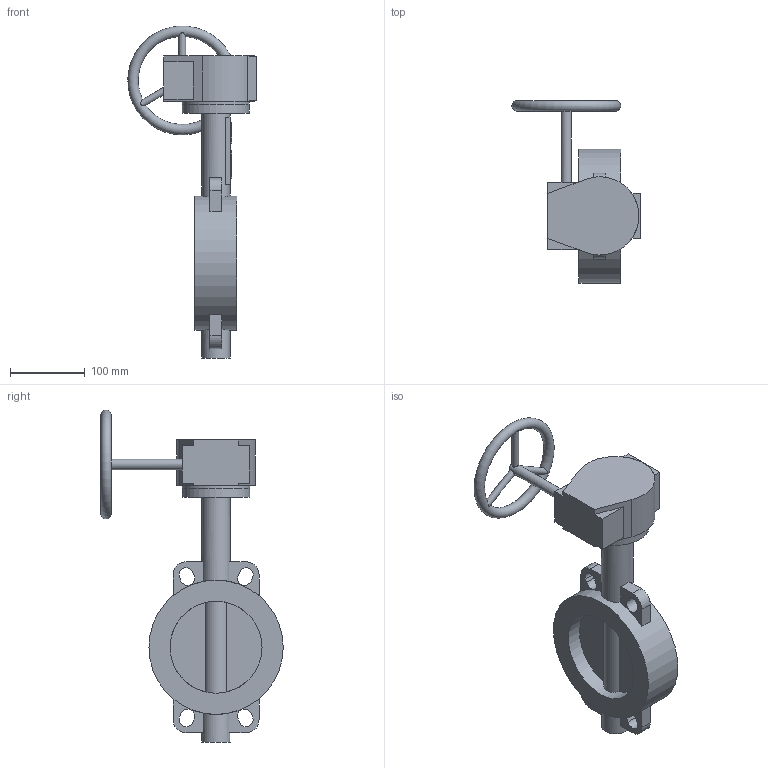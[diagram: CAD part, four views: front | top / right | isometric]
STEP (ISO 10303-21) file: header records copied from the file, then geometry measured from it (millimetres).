
FILE_DESCRIPTION(('STEP AP203'), '1');
FILE_NAME('Çàòâîð 017W.Z(÷óãóí) DN125 PN10_16 ðåäóêòîð', '', ('UNSPECIFIED'), ('UNSPECIFIED'), 'ASCON STEP Converter 1.6', 'ASCON Math Kernel', '');
FILE_SCHEMA(('CONFIG_CONTROL_DESIGN'));
Length unit declared in the file: millimetre
Bounding box: 171.91 x 244.5 x 444.98 mm (x, y, z)
Volume: 775614.2 mm3; surface area: 229000.6 mm2
Topology: 1 solids, 2 shells, 680 faces, 1990 edges, 1282 vertices
Faces by surface type: cylinder 472, plane 207, torus 1
Full cylindrical faces by diameter (mm): 6.7 x4, 9 x3, 10 x4, 14 x1, 18.9 x1, 38 x2, 55 x1, 90 x2, 123.3 x2, 180 x1
Entity records: 29941 total; most frequent: CARTESIAN_POINT 5561, DIRECTION 4309, ORIENTED_EDGE 3871, EDGE_CURVE 1967, AXIS2_PLACEMENT_3D 1681, VERTEX_POINT 1281, CIRCLE 1000, LINE 947
